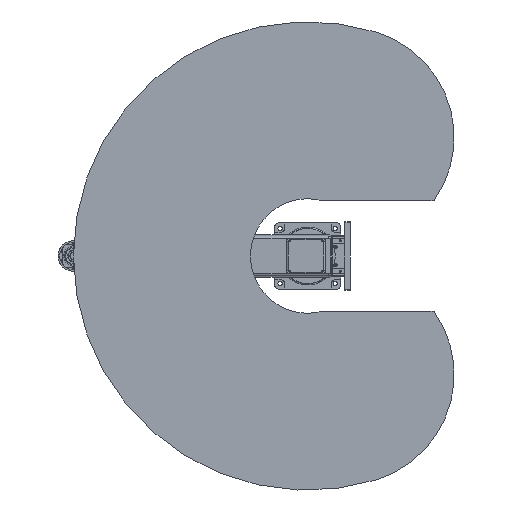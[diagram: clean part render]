
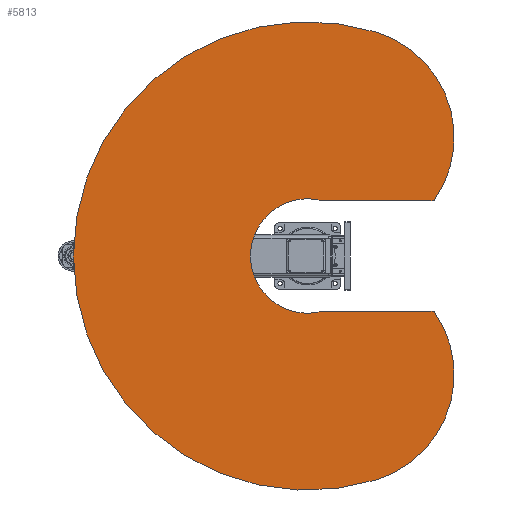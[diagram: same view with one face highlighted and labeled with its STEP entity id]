
A CAD part, front view. The second image highlights one B-rep face of the part: STEP entity #5813.
In plain terms, the highlighted planar face has unit normal (0, -1, 0).
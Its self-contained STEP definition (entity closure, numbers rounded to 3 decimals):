
#5813 = ADVANCED_FACE( '', ( #13216 ), #13217, .F. );
#13216 = FACE_OUTER_BOUND( '', #22479, .T. );
#13217 = PLANE( '', #22480 );
#22479 = EDGE_LOOP( '', ( #39463, #39464, #39465, #39466, #39467, #39468 ) );
#22480 = AXIS2_PLACEMENT_3D( '', #39469, #39470, #39471 );
#39463 = ORIENTED_EDGE( '', *, *, #52920, .F. );
#39464 = ORIENTED_EDGE( '', *, *, #53526, .F. );
#39465 = ORIENTED_EDGE( '', *, *, #53561, .T. );
#39466 = ORIENTED_EDGE( '', *, *, #48133, .F. );
#39467 = ORIENTED_EDGE( '', *, *, #50727, .F. );
#39468 = ORIENTED_EDGE( '', *, *, #51118, .F. );
#39469 = CARTESIAN_POINT( '', ( 430.337, 0., 131.567 ) );
#39470 = DIRECTION( '', ( 0., 1., 0. ) );
#39471 = DIRECTION( '', ( 0., 0., 1. ) );
#48133 = EDGE_CURVE( '', #56936, #56937, #56938, .T. );
#50727 = EDGE_CURVE( '', #61210, #56936, #61211, .T. );
#51118 = EDGE_CURVE( '', #61796, #61210, #61797, .T. );
#52920 = EDGE_CURVE( '', #64452, #61796, #64453, .T. );
#53526 = EDGE_CURVE( '', #65250, #64452, #65251, .T. );
#53561 = EDGE_CURVE( '', #65250, #56937, #65292, .T. );
#56936 = VERTEX_POINT( '', #69980 );
#56937 = VERTEX_POINT( '', #69981 );
#56938 = LINE( '', #69982, #69983 );
#61210 = VERTEX_POINT( '', #76520 );
#61211 = CIRCLE( '', #76521, 400. );
#61796 = VERTEX_POINT( '', #77606 );
#61797 = CIRCLE( '', #77607, 850. );
#64452 = VERTEX_POINT( '', #81870 );
#64453 = CIRCLE( '', #81871, 400. );
#65250 = VERTEX_POINT( '', #83390 );
#65251 = LINE( '', #83391, #83392 );
#65292 = CIRCLE( '', #83473, 207.8 );
#69980 = CARTESIAN_POINT( '', ( -200., 0., 458.591 ) );
#69981 = CARTESIAN_POINT( '', ( -200., 0., 56.399 ) );
#69982 = CARTESIAN_POINT( '', ( -200., 0., 458.591 ) );
#69983 = VECTOR( '', #88139, 1000. );
#76520 = CARTESIAN_POINT( '', ( -812.859, 0., 248.516 ) );
#76521 = AXIS2_PLACEMENT_3D( '', #91432, #91433, #91434 );
#77606 = CARTESIAN_POINT( '', ( 812.859, 0., 248.516 ) );
#77607 = AXIS2_PLACEMENT_3D( '', #91880, #91881, #91882 );
#81870 = CARTESIAN_POINT( '', ( 200., 0., 458.591 ) );
#81871 = AXIS2_PLACEMENT_3D( '', #94154, #94155, #94156 );
#83390 = CARTESIAN_POINT( '', ( 200., 0., 56.399 ) );
#83391 = CARTESIAN_POINT( '', ( 200., 0., 56.399 ) );
#83392 = VECTOR( '', #94788, 1000. );
#83473 = AXIS2_PLACEMENT_3D( '', #94821, #94822, #94823 );
#88139 = DIRECTION( '', ( 0., 0., -1. ) );
#91432 = CARTESIAN_POINT( '', ( -430.337, 0., 131.567 ) );
#91433 = DIRECTION( '', ( 0., 1., 0. ) );
#91434 = DIRECTION( '', ( 1., 0., 0. ) );
#91880 = CARTESIAN_POINT( '', ( 0., 0., 0. ) );
#91881 = DIRECTION( '', ( 0., 1., 0. ) );
#91882 = DIRECTION( '', ( 1., 0., 0. ) );
#94154 = CARTESIAN_POINT( '', ( 430.337, 0., 131.567 ) );
#94155 = DIRECTION( '', ( 0., 1., 0. ) );
#94156 = DIRECTION( '', ( 1., 0., 0. ) );
#94788 = DIRECTION( '', ( 0., 0., 1. ) );
#94821 = CARTESIAN_POINT( '', ( 0., 0., 0. ) );
#94822 = DIRECTION( '', ( 0., 1., 0. ) );
#94823 = DIRECTION( '', ( 1., 0., 0. ) );
